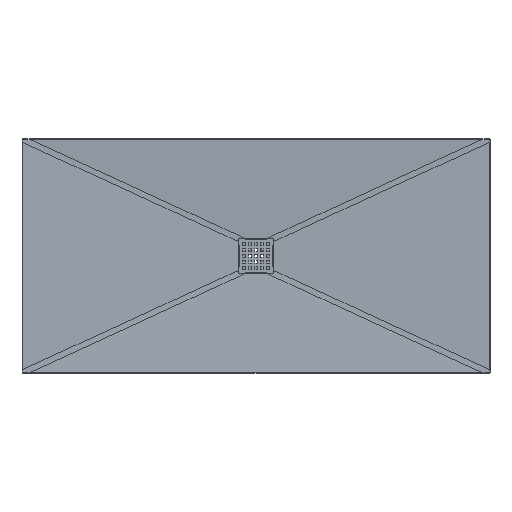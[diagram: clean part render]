
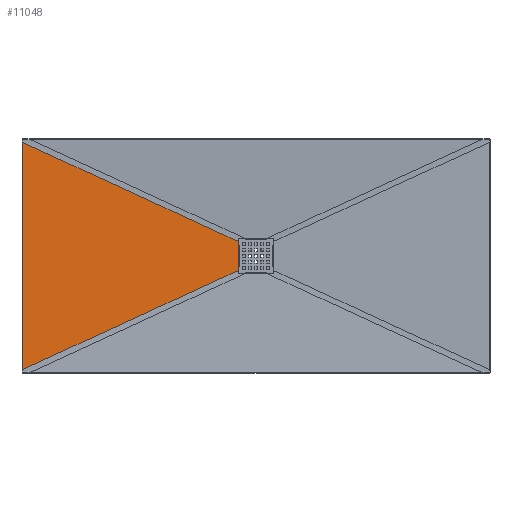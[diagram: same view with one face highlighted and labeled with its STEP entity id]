
A CAD part, top view. The second image highlights one B-rep face of the part: STEP entity #11048.
In plain terms, the highlighted free-form (B-spline) face has degree [1, 1] with [2, 2] control points.
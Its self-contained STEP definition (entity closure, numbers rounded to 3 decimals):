
#584 = CARTESIAN_POINT ( 'NONE',  ( -575.785, -286.305, -6.06 ) ) ;
#966 = CARTESIAN_POINT ( 'NONE',  ( -797.946, 388.379, -0.056 ) ) ;
#1151 = CARTESIAN_POINT ( 'NONE',  ( -96.552, -66.117, -19.012 ) ) ;
#1166 = CARTESIAN_POINT ( 'NONE',  ( -66.765, 52.431, -19.817 ) ) ;
#1189 = CARTESIAN_POINT ( 'NONE',  ( -60.973, -49.77, -19.974 ) ) ;
#1352 = CARTESIAN_POINT ( 'NONE',  ( -300.76, 159.942, -13.493 ) ) ;
#1548 = CARTESIAN_POINT ( 'NONE',  ( -409.316, 209.819, -10.559 ) ) ;
#1654 = B_SPLINE_CURVE_WITH_KNOTS ( 'NONE', 3,
 ( #14083, #10954, #17394, #2634, #22789 ),
 .UNSPECIFIED., .F., .F.,
 ( 4, 1, 4 ),
 ( 0., 246.421, 776.757 ),
 .UNSPECIFIED. ) ;
#2634 = CARTESIAN_POINT ( 'NONE',  ( -797.946, 211.6, -0.056 ) ) ;
#4042 = CARTESIAN_POINT ( 'NONE',  ( -268.528, -145.133, -14.364 ) ) ;
#4935 = CARTESIAN_POINT ( 'NONE',  ( -60.972, 58.829, -19.974 ) ) ;
#5313 = B_SPLINE_CURVE_WITH_KNOTS ( 'NONE', 3,
 ( #966, #25163, #28074, #9882, #18815, #36824, #37018, #1548, #10079, #30598, #1352, #24582, #13178, #36441, #15908, #19381, #27691, #7361, #33701, #16103, #1166, #12980 ),
 .UNSPECIFIED., .F., .F.,
 ( 4, 1, 1, 1, 1, 1, 1, 1, 1, 1, 1, 1, 1, 1, 1, 1, 1, 1, 1, 4 ),
 ( 2.261, 93.472, 178.598, 246.198, 315.676, 377.642, 437.41, 475.181, 512.953, 550.724, 585.062, 619.4, 659.285, 687.02, 711.981, 741.103, 756.098, 772.622, 794.416, 813.545 ),
 .UNSPECIFIED. ) ;
#6964 = CARTESIAN_POINT ( 'NONE',  ( -797.946, -388.379, -0.056 ) ) ;
#7188 = VERTEX_POINT ( 'NONE', #36203 ) ;
#7361 = CARTESIAN_POINT ( 'NONE',  ( -112.695, 73.534, -18.576 ) ) ;
#9307 = CARTESIAN_POINT ( 'NONE',  ( -151.974, -91.581, -17.514 ) ) ;
#9496 = CARTESIAN_POINT ( 'NONE',  ( -204.783, -115.844, -16.087 ) ) ;
#9867 = CARTESIAN_POINT ( 'NONE',  ( -334.032, -175.229, -12.594 ) ) ;
#9882 = CARTESIAN_POINT ( 'NONE',  ( -643.068, 317.219, -4.241 ) ) ;
#10066 = CARTESIAN_POINT ( 'NONE',  ( -515.514, -258.612, -7.689 ) ) ;
#10079 = CARTESIAN_POINT ( 'NONE',  ( -368.344, 190.994, -11.666 ) ) ;
#10542 = EDGE_CURVE ( 'NONE', #36333, #27272, #5313, .T. ) ;
#10929 = CARTESIAN_POINT ( 'NONE',  ( -60.972, -58.829, -19.974 ) ) ;
#10954 = CARTESIAN_POINT ( 'NONE',  ( -797.946, -306.238, -0.056 ) ) ;
#11048 = ADVANCED_FACE ( 'NONE', ( #33246 ), #11201, .F. ) ;
#11201 = B_SPLINE_SURFACE_WITH_KNOTS ( 'NONE', 1, 1, ( 
 ( #28189, #10929 ),
 ( #36934, #4935 ) ),
 .UNSPECIFIED., .F., .F., .F.,
 ( 2, 2 ),
 ( 2, 2 ),
 ( 0., 778.594 ),
 ( 0., 1. ),
 .UNSPECIFIED. ) ;
#12980 = CARTESIAN_POINT ( 'NONE',  ( -60.973, 49.769, -19.974 ) ) ;
#13006 = CARTESIAN_POINT ( 'NONE',  ( -60.973, -28.94, -19.974 ) ) ;
#13178 = CARTESIAN_POINT ( 'NONE',  ( -235.656, 130.029, -15.253 ) ) ;
#14016 = VERTEX_POINT ( 'NONE', #14518 ) ;
#14083 = CARTESIAN_POINT ( 'NONE',  ( -797.946, -388.379, -0.056 ) ) ;
#14518 = CARTESIAN_POINT ( 'NONE',  ( -60.973, -49.77, -19.974 ) ) ;
#15324 = CARTESIAN_POINT ( 'NONE',  ( -716.932, -351.156, -2.245 ) ) ;
#15895 = CARTESIAN_POINT ( 'NONE',  ( -176.749, -102.964, -16.845 ) ) ;
#15908 = CARTESIAN_POINT ( 'NONE',  ( -176.749, 102.964, -16.845 ) ) ;
#16103 = CARTESIAN_POINT ( 'NONE',  ( -79.157, 58.124, -19.482 ) ) ;
#16277 = CARTESIAN_POINT ( 'NONE',  ( -797.946, 388.379, -0.056 ) ) ;
#17394 = CARTESIAN_POINT ( 'NONE',  ( -797.946, -47.319, -0.056 ) ) ;
#18058 = CARTESIAN_POINT ( 'NONE',  ( -235.656, -130.029, -15.253 ) ) ;
#18457 = EDGE_CURVE ( 'NONE', #7188, #14016, #29602, .T. ) ;
#18621 = CARTESIAN_POINT ( 'NONE',  ( -131.057, -81.97, -18.08 ) ) ;
#18815 = CARTESIAN_POINT ( 'NONE',  ( -575.785, 286.305, -6.06 ) ) ;
#19381 = CARTESIAN_POINT ( 'NONE',  ( -151.974, 91.581, -17.514 ) ) ;
#21278 = ORIENTED_EDGE ( 'NONE', *, *, #30619, .F. ) ;
#21288 = CARTESIAN_POINT ( 'NONE',  ( -60.973, 49.769, -19.974 ) ) ;
#21304 = CARTESIAN_POINT ( 'NONE',  ( -112.695, -73.534, -18.576 ) ) ;
#21493 = CARTESIAN_POINT ( 'NONE',  ( -770.327, -375.689, -0.802 ) ) ;
#21724 = CARTESIAN_POINT ( 'NONE',  ( -60.973, 37.419, -19.974 ) ) ;
#21875 = CARTESIAN_POINT ( 'NONE',  ( -79.157, -58.124, -19.482 ) ) ;
#22428 = B_SPLINE_CURVE_WITH_KNOTS ( 'NONE', 3,
 ( #36468, #21724, #33544, #13006, #1189 ),
 .UNSPECIFIED., .F., .F.,
 ( 4, 1, 4 ),
 ( 0., 37.05, 99.539 ),
 .UNSPECIFIED. ) ;
#22789 = CARTESIAN_POINT ( 'NONE',  ( -797.946, 388.379, -0.056 ) ) ;
#24194 = CARTESIAN_POINT ( 'NONE',  ( -368.344, -190.994, -11.666 ) ) ;
#24582 = CARTESIAN_POINT ( 'NONE',  ( -268.528, 145.133, -14.364 ) ) ;
#25163 = CARTESIAN_POINT ( 'NONE',  ( -770.327, 375.689, -0.802 ) ) ;
#27272 = VERTEX_POINT ( 'NONE', #21288 ) ;
#27674 = CARTESIAN_POINT ( 'NONE',  ( -409.316, -209.819, -10.559 ) ) ;
#27691 = CARTESIAN_POINT ( 'NONE',  ( -131.057, 81.97, -18.08 ) ) ;
#27873 = EDGE_CURVE ( 'NONE', #27272, #14016, #22428, .T. ) ;
#28074 = CARTESIAN_POINT ( 'NONE',  ( -716.932, 351.156, -2.245 ) ) ;
#28189 = CARTESIAN_POINT ( 'NONE',  ( -797.947, -388.379, -0.055 ) ) ;
#29602 = B_SPLINE_CURVE_WITH_KNOTS ( 'NONE', 3,
 ( #6964, #21493, #15324, #33129, #584, #10066, #33504, #27674, #24194, #9867, #33309, #4042, #18058, #9496, #15895, #9307, #18621, #21304, #1151, #21875, #29840, #32941 ),
 .UNSPECIFIED., .F., .F.,
 ( 4, 1, 1, 1, 1, 1, 1, 1, 1, 1, 1, 1, 1, 1, 1, 1, 1, 1, 1, 4 ),
 ( 2.261, 93.472, 178.598, 246.198, 315.676, 377.642, 437.41, 475.181, 512.953, 550.724, 585.062, 619.4, 659.285, 687.02, 711.981, 741.103, 756.098, 772.622, 794.416, 813.545 ),
 .UNSPECIFIED. ) ;
#29840 = CARTESIAN_POINT ( 'NONE',  ( -66.765, -52.431, -19.817 ) ) ;
#30598 = CARTESIAN_POINT ( 'NONE',  ( -334.032, 175.229, -12.594 ) ) ;
#30619 = EDGE_CURVE ( 'NONE', #7188, #36333, #1654, .T. ) ;
#32941 = CARTESIAN_POINT ( 'NONE',  ( -60.973, -49.77, -19.974 ) ) ;
#33129 = CARTESIAN_POINT ( 'NONE',  ( -643.068, -317.219, -4.241 ) ) ;
#33246 = FACE_OUTER_BOUND ( 'NONE', #34535, .T. ) ;
#33309 = CARTESIAN_POINT ( 'NONE',  ( -300.76, -159.942, -13.493 ) ) ;
#33504 = CARTESIAN_POINT ( 'NONE',  ( -457.615, -232.01, -9.254 ) ) ;
#33544 = CARTESIAN_POINT ( 'NONE',  ( -60.973, 4.24, -19.974 ) ) ;
#33701 = CARTESIAN_POINT ( 'NONE',  ( -96.552, 66.117, -19.012 ) ) ;
#33722 = ORIENTED_EDGE ( 'NONE', *, *, #18457, .T. ) ;
#33915 = ORIENTED_EDGE ( 'NONE', *, *, #27873, .F. ) ;
#34535 = EDGE_LOOP ( 'NONE', ( #36756, #21278, #33722, #33915 ) ) ;
#36203 = CARTESIAN_POINT ( 'NONE',  ( -797.946, -388.379, -0.056 ) ) ;
#36333 = VERTEX_POINT ( 'NONE', #16277 ) ;
#36441 = CARTESIAN_POINT ( 'NONE',  ( -204.783, 115.844, -16.087 ) ) ;
#36468 = CARTESIAN_POINT ( 'NONE',  ( -60.973, 49.769, -19.974 ) ) ;
#36756 = ORIENTED_EDGE ( 'NONE', *, *, #10542, .F. ) ;
#36824 = CARTESIAN_POINT ( 'NONE',  ( -515.514, 258.612, -7.689 ) ) ;
#36934 = CARTESIAN_POINT ( 'NONE',  ( -797.947, 388.379, -0.055 ) ) ;
#37018 = CARTESIAN_POINT ( 'NONE',  ( -457.615, 232.01, -9.254 ) ) ;
